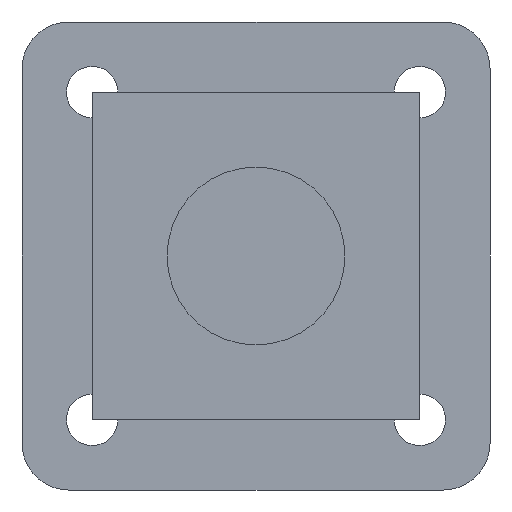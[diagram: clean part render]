
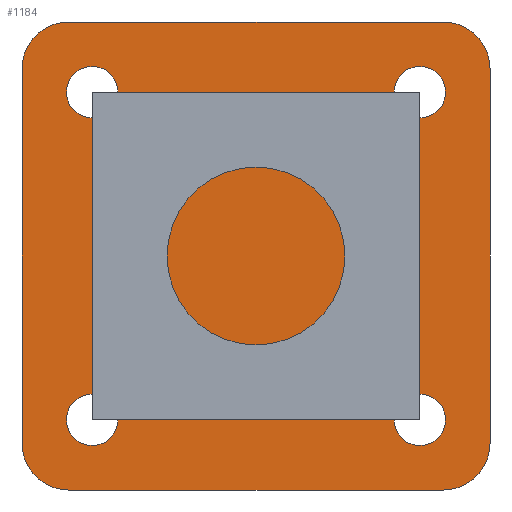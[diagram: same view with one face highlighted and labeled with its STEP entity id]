
A CAD part, front view. The second image highlights one B-rep face of the part: STEP entity #1184.
In plain terms, the highlighted planar face has unit normal (0, -1, 0).
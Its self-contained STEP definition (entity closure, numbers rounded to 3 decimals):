
#8 = CARTESIAN_POINT ( 'NONE',  ( 35., 0., 35. ) ) ;
#11 = EDGE_CURVE ( 'NONE', #1539, #4903, #4649, .T. ) ;
#16 = DIRECTION ( 'NONE',  ( 0., 0., -1. ) ) ;
#27 = EDGE_LOOP ( 'NONE', ( #1888, #3336 ) ) ;
#146 = AXIS2_PLACEMENT_3D ( 'NONE', #4325, #3909, #4259 ) ;
#188 = DIRECTION ( 'NONE',  ( 0., 1., 0. ) ) ;
#212 = CARTESIAN_POINT ( 'NONE',  ( 50., 0., -50. ) ) ;
#230 = FACE_BOUND ( 'NONE', #3308, .T. ) ;
#260 = DIRECTION ( 'NONE',  ( 0., 0., 1. ) ) ;
#274 = CARTESIAN_POINT ( 'NONE',  ( 40., 0., -40. ) ) ;
#360 = DIRECTION ( 'NONE',  ( 0., 1., 0. ) ) ;
#361 = DIRECTION ( 'NONE',  ( 0., 0., 1. ) ) ;
#401 = CARTESIAN_POINT ( 'NONE',  ( 35., 0., 40.5 ) ) ;
#428 = DIRECTION ( 'NONE',  ( 0., -1., 0. ) ) ;
#438 = CIRCLE ( 'NONE', #3338, 5.5 ) ;
#460 = ORIENTED_EDGE ( 'NONE', *, *, #1000, .T. ) ;
#463 = AXIS2_PLACEMENT_3D ( 'NONE', #1130, #1119, #361 ) ;
#512 = VERTEX_POINT ( 'NONE', #4558 ) ;
#546 = ORIENTED_EDGE ( 'NONE', *, *, #3363, .F. ) ;
#571 = LINE ( 'NONE', #1308, #4184 ) ;
#604 = EDGE_CURVE ( 'NONE', #743, #775, #2199, .T. ) ;
#608 = FACE_OUTER_BOUND ( 'NONE', #2000, .T. ) ;
#708 = CIRCLE ( 'NONE', #4493, 10. ) ;
#743 = VERTEX_POINT ( 'NONE', #4919 ) ;
#758 = LINE ( 'NONE', #212, #2827 ) ;
#775 = VERTEX_POINT ( 'NONE', #4531 ) ;
#785 = CARTESIAN_POINT ( 'NONE',  ( -35., 0., 29.5 ) ) ;
#802 = EDGE_CURVE ( 'NONE', #4459, #512, #3963, .T. ) ;
#811 = CARTESIAN_POINT ( 'NONE',  ( -35., 0., 35. ) ) ;
#829 = VERTEX_POINT ( 'NONE', #2821 ) ;
#896 = AXIS2_PLACEMENT_3D ( 'NONE', #8, #1234, #4774 ) ;
#953 = DIRECTION ( 'NONE',  ( 0., 1., 0. ) ) ;
#998 = VERTEX_POINT ( 'NONE', #4711 ) ;
#1000 = EDGE_CURVE ( 'NONE', #2191, #4537, #4153, .T. ) ;
#1047 = FACE_BOUND ( 'NONE', #2183, .T. ) ;
#1100 = DIRECTION ( 'NONE',  ( 0., 0., 1. ) ) ;
#1108 = DIRECTION ( 'NONE',  ( 0., 1., 0. ) ) ;
#1119 = DIRECTION ( 'NONE',  ( 0., 1., 0. ) ) ;
#1130 = CARTESIAN_POINT ( 'NONE',  ( -35., 0., 35. ) ) ;
#1150 = ORIENTED_EDGE ( 'NONE', *, *, #3611, .T. ) ;
#1151 = PLANE ( 'NONE',  #4248 ) ;
#1158 = CIRCLE ( 'NONE', #1185, 5.5 ) ;
#1184 = ADVANCED_FACE ( 'NONE', ( #1047, #230, #3728, #3473, #608 ), #1151, .F. ) ;
#1185 = AXIS2_PLACEMENT_3D ( 'NONE', #3056, #1108, #1554 ) ;
#1222 = VECTOR ( 'NONE', #3059, 1000. ) ;
#1234 = DIRECTION ( 'NONE',  ( 0., 1., 0. ) ) ;
#1289 = VERTEX_POINT ( 'NONE', #4647 ) ;
#1308 = CARTESIAN_POINT ( 'NONE',  ( -50., 0., -50. ) ) ;
#1331 = VERTEX_POINT ( 'NONE', #4249 ) ;
#1356 = ORIENTED_EDGE ( 'NONE', *, *, #3192, .T. ) ;
#1361 = CARTESIAN_POINT ( 'NONE',  ( -40., 0., -40. ) ) ;
#1453 = EDGE_CURVE ( 'NONE', #743, #998, #2933, .T. ) ;
#1522 = ORIENTED_EDGE ( 'NONE', *, *, #4271, .T. ) ;
#1539 = VERTEX_POINT ( 'NONE', #785 ) ;
#1554 = DIRECTION ( 'NONE',  ( 0., 0., 1. ) ) ;
#1597 = AXIS2_PLACEMENT_3D ( 'NONE', #3635, #428, #4358 ) ;
#1603 = ORIENTED_EDGE ( 'NONE', *, *, #3005, .T. ) ;
#1705 = DIRECTION ( 'NONE',  ( -1., 0., 0. ) ) ;
#1815 = ORIENTED_EDGE ( 'NONE', *, *, #604, .T. ) ;
#1888 = ORIENTED_EDGE ( 'NONE', *, *, #4657, .T. ) ;
#1942 = EDGE_CURVE ( 'NONE', #4537, #2191, #4888, .T. ) ;
#1958 = ORIENTED_EDGE ( 'NONE', *, *, #1453, .F. ) ;
#1989 = VERTEX_POINT ( 'NONE', #4581 ) ;
#2000 = EDGE_LOOP ( 'NONE', ( #4261, #1150, #1958, #1815, #2126, #1522, #546, #2156 ) ) ;
#2005 = EDGE_CURVE ( 'NONE', #1989, #775, #4588, .T. ) ;
#2077 = CARTESIAN_POINT ( 'NONE',  ( -35., 0., -29.5 ) ) ;
#2126 = ORIENTED_EDGE ( 'NONE', *, *, #2005, .F. ) ;
#2156 = ORIENTED_EDGE ( 'NONE', *, *, #2707, .T. ) ;
#2160 = ORIENTED_EDGE ( 'NONE', *, *, #1942, .T. ) ;
#2169 = AXIS2_PLACEMENT_3D ( 'NONE', #4887, #3819, #2621 ) ;
#2183 = EDGE_LOOP ( 'NONE', ( #1356, #3283 ) ) ;
#2191 = VERTEX_POINT ( 'NONE', #3137 ) ;
#2199 = CIRCLE ( 'NONE', #1597, 10. ) ;
#2252 = CARTESIAN_POINT ( 'NONE',  ( -50., 0., -50. ) ) ;
#2256 = DIRECTION ( 'NONE',  ( 0., -1., 0. ) ) ;
#2261 = CARTESIAN_POINT ( 'NONE',  ( 50., 0., 40. ) ) ;
#2314 = DIRECTION ( 'NONE',  ( 0., 1., 0. ) ) ;
#2464 = DIRECTION ( 'NONE',  ( 0., 0., 1. ) ) ;
#2613 = CARTESIAN_POINT ( 'NONE',  ( 40., 0., 40. ) ) ;
#2621 = DIRECTION ( 'NONE',  ( 0., 0., 1. ) ) ;
#2703 = DIRECTION ( 'NONE',  ( 0., 0., 1. ) ) ;
#2705 = CIRCLE ( 'NONE', #3127, 10. ) ;
#2707 = EDGE_CURVE ( 'NONE', #829, #2853, #708, .T. ) ;
#2821 = CARTESIAN_POINT ( 'NONE',  ( 40., 0., -50. ) ) ;
#2827 = VECTOR ( 'NONE', #16, 1000. ) ;
#2853 = VERTEX_POINT ( 'NONE', #5068 ) ;
#2933 = LINE ( 'NONE', #4672, #4275 ) ;
#2936 = DIRECTION ( 'NONE',  ( 0., 0., 1. ) ) ;
#3005 = EDGE_CURVE ( 'NONE', #4800, #1331, #1158, .T. ) ;
#3056 = CARTESIAN_POINT ( 'NONE',  ( -35., 0., -35. ) ) ;
#3059 = DIRECTION ( 'NONE',  ( 0., 0., 1. ) ) ;
#3079 = CARTESIAN_POINT ( 'NONE',  ( 0., 0., 0. ) ) ;
#3097 = EDGE_CURVE ( 'NONE', #4337, #2853, #758, .T. ) ;
#3127 = AXIS2_PLACEMENT_3D ( 'NONE', #1361, #4871, #2464 ) ;
#3137 = CARTESIAN_POINT ( 'NONE',  ( 35., 0., 29.5 ) ) ;
#3192 = EDGE_CURVE ( 'NONE', #4903, #1539, #3991, .T. ) ;
#3283 = ORIENTED_EDGE ( 'NONE', *, *, #11, .T. ) ;
#3308 = EDGE_LOOP ( 'NONE', ( #2160, #460 ) ) ;
#3336 = ORIENTED_EDGE ( 'NONE', *, *, #802, .T. ) ;
#3338 = AXIS2_PLACEMENT_3D ( 'NONE', #3365, #953, #4037 ) ;
#3363 = EDGE_CURVE ( 'NONE', #829, #1289, #571, .T. ) ;
#3365 = CARTESIAN_POINT ( 'NONE',  ( 35., 0., -35. ) ) ;
#3473 = FACE_BOUND ( 'NONE', #4626, .T. ) ;
#3544 = DIRECTION ( 'NONE',  ( 0., 0., 1. ) ) ;
#3611 = EDGE_CURVE ( 'NONE', #4337, #998, #3817, .T. ) ;
#3635 = CARTESIAN_POINT ( 'NONE',  ( -40., 0., 40. ) ) ;
#3728 = FACE_BOUND ( 'NONE', #27, .T. ) ;
#3813 = DIRECTION ( 'NONE',  ( 0., -1., 0. ) ) ;
#3817 = CIRCLE ( 'NONE', #4318, 10. ) ;
#3819 = DIRECTION ( 'NONE',  ( 0., 1., 0. ) ) ;
#3879 = CARTESIAN_POINT ( 'NONE',  ( 35., 0., -40.5 ) ) ;
#3909 = DIRECTION ( 'NONE',  ( 0., 1., 0. ) ) ;
#3963 = CIRCLE ( 'NONE', #4108, 5.5 ) ;
#3991 = CIRCLE ( 'NONE', #4944, 5.5 ) ;
#4037 = DIRECTION ( 'NONE',  ( 0., 0., 1. ) ) ;
#4108 = AXIS2_PLACEMENT_3D ( 'NONE', #4890, #188, #2936 ) ;
#4153 = CIRCLE ( 'NONE', #896, 5.5 ) ;
#4184 = VECTOR ( 'NONE', #1705, 1000. ) ;
#4248 = AXIS2_PLACEMENT_3D ( 'NONE', #3079, #360, #2703 ) ;
#4249 = CARTESIAN_POINT ( 'NONE',  ( -35., 0., -40.5 ) ) ;
#4259 = DIRECTION ( 'NONE',  ( 0., 0., 1. ) ) ;
#4261 = ORIENTED_EDGE ( 'NONE', *, *, #3097, .F. ) ;
#4271 = EDGE_CURVE ( 'NONE', #1989, #1289, #2705, .T. ) ;
#4275 = VECTOR ( 'NONE', #5076, 1000. ) ;
#4307 = CIRCLE ( 'NONE', #146, 5.5 ) ;
#4318 = AXIS2_PLACEMENT_3D ( 'NONE', #2613, #3813, #260 ) ;
#4325 = CARTESIAN_POINT ( 'NONE',  ( -35., 0., -35. ) ) ;
#4337 = VERTEX_POINT ( 'NONE', #2261 ) ;
#4358 = DIRECTION ( 'NONE',  ( 0., 0., 1. ) ) ;
#4459 = VERTEX_POINT ( 'NONE', #3879 ) ;
#4493 = AXIS2_PLACEMENT_3D ( 'NONE', #274, #2256, #1100 ) ;
#4531 = CARTESIAN_POINT ( 'NONE',  ( -50., 0., 40. ) ) ;
#4537 = VERTEX_POINT ( 'NONE', #401 ) ;
#4558 = CARTESIAN_POINT ( 'NONE',  ( 35., 0., -29.5 ) ) ;
#4581 = CARTESIAN_POINT ( 'NONE',  ( -50., 0., -40. ) ) ;
#4588 = LINE ( 'NONE', #2252, #1222 ) ;
#4626 = EDGE_LOOP ( 'NONE', ( #1603, #4651 ) ) ;
#4647 = CARTESIAN_POINT ( 'NONE',  ( -40., 0., -50. ) ) ;
#4649 = CIRCLE ( 'NONE', #463, 5.5 ) ;
#4651 = ORIENTED_EDGE ( 'NONE', *, *, #5061, .T. ) ;
#4657 = EDGE_CURVE ( 'NONE', #512, #4459, #438, .T. ) ;
#4672 = CARTESIAN_POINT ( 'NONE',  ( -50., 0., 50. ) ) ;
#4711 = CARTESIAN_POINT ( 'NONE',  ( 40., 0., 50. ) ) ;
#4774 = DIRECTION ( 'NONE',  ( 0., 0., 1. ) ) ;
#4800 = VERTEX_POINT ( 'NONE', #2077 ) ;
#4805 = CARTESIAN_POINT ( 'NONE',  ( -35., 0., 40.5 ) ) ;
#4871 = DIRECTION ( 'NONE',  ( 0., -1., 0. ) ) ;
#4887 = CARTESIAN_POINT ( 'NONE',  ( 35., 0., 35. ) ) ;
#4888 = CIRCLE ( 'NONE', #2169, 5.5 ) ;
#4890 = CARTESIAN_POINT ( 'NONE',  ( 35., 0., -35. ) ) ;
#4903 = VERTEX_POINT ( 'NONE', #4805 ) ;
#4919 = CARTESIAN_POINT ( 'NONE',  ( -40., 0., 50. ) ) ;
#4944 = AXIS2_PLACEMENT_3D ( 'NONE', #811, #2314, #3544 ) ;
#5061 = EDGE_CURVE ( 'NONE', #1331, #4800, #4307, .T. ) ;
#5068 = CARTESIAN_POINT ( 'NONE',  ( 50., 0., -40. ) ) ;
#5076 = DIRECTION ( 'NONE',  ( 1., 0., 0. ) ) ;
